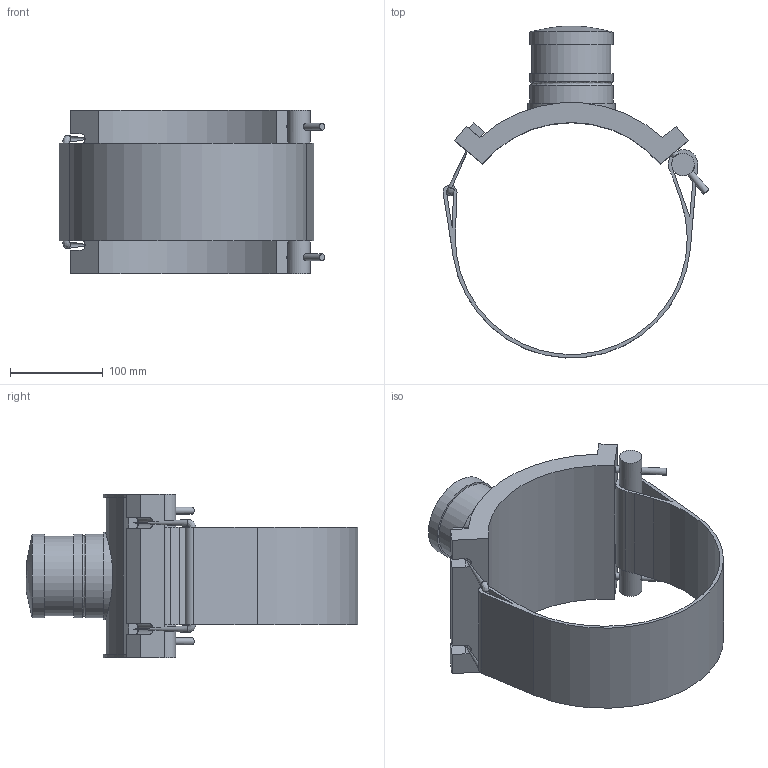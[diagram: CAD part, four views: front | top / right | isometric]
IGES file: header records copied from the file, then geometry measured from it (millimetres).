
Global section: file name: 496804250025.ipt; native system: Autodesk Inventor 2015; preprocessor: unknown; author: KIM; date: 20171106.094421; units: millimetre
Bounding box: 286.5 x 357.76 x 176 mm (x, y, z)
Volume: 1835285.6 mm3; surface area: 320981 mm2
Topology: 2 solids, 2 shells, 72 faces, 185 edges, 120 vertices
Faces by surface type: plane 43, cylinder 19, revolution 9, sphere 1
Full cylindrical faces by diameter (mm): 7.5 x6, 24.231 x1, 85.5 x1, 90 x3, 94.5 x1
